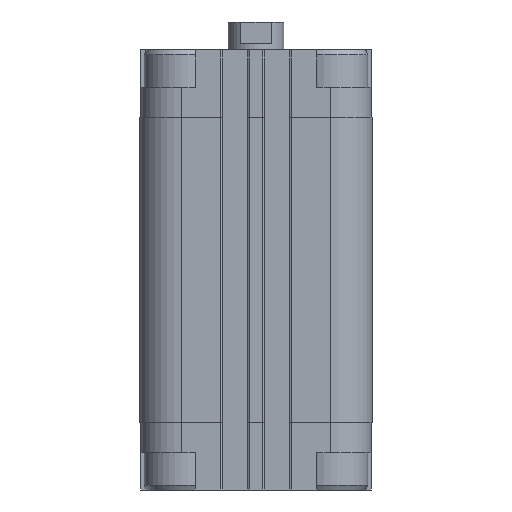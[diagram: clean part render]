
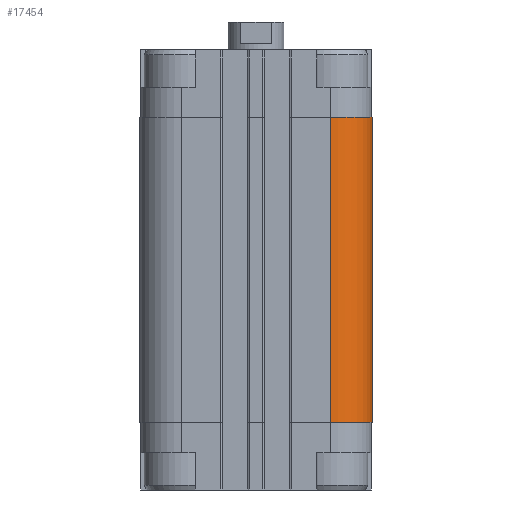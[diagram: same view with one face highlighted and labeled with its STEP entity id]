
A CAD part, front view. The second image highlights one B-rep face of the part: STEP entity #17454.
In plain terms, the highlighted cylindrical face has radius 9 mm (diameter 18 mm), a partial arc.
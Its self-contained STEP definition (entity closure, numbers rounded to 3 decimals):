
#718 = CYLINDRICAL_SURFACE ( 'NONE', #21662, 9. ) ;
#1624 = CARTESIAN_POINT ( 'NONE',  ( 16., -16., -80. ) ) ;
#1860 = EDGE_CURVE ( 'NONE', #20451, #20395, #12939, .T. ) ;
#4367 = EDGE_CURVE ( 'NONE', #12424, #10862, #9340, .T. ) ;
#4683 = DIRECTION ( 'NONE',  ( 0., 0., 1. ) ) ;
#4739 = CARTESIAN_POINT ( 'NONE',  ( 16., -25., -14.5 ) ) ;
#5869 = CARTESIAN_POINT ( 'NONE',  ( 25., -16., -80. ) ) ;
#6098 = FACE_OUTER_BOUND ( 'NONE', #17919, .T. ) ;
#6649 = CARTESIAN_POINT ( 'NONE',  ( 16., -25., -80. ) ) ;
#7453 = CARTESIAN_POINT ( 'NONE',  ( 16., -16., -80. ) ) ;
#7646 = EDGE_CURVE ( 'NONE', #20395, #10862, #9447, .T. ) ;
#7775 = CARTESIAN_POINT ( 'NONE',  ( 16., -25., -80. ) ) ;
#8079 = CIRCLE ( 'NONE', #19580, 9. ) ;
#8470 = DIRECTION ( 'NONE',  ( 0., 0., 1. ) ) ;
#9340 = LINE ( 'NONE', #5869, #12985 ) ;
#9447 = CIRCLE ( 'NONE', #20563, 9. ) ;
#9572 = DIRECTION ( 'NONE',  ( 0., 0., 1. ) ) ;
#10862 = VERTEX_POINT ( 'NONE', #19727 ) ;
#11142 = ORIENTED_EDGE ( 'NONE', *, *, #16235, .T. ) ;
#11146 = DIRECTION ( 'NONE',  ( -1., 0., 0. ) ) ;
#12424 = VERTEX_POINT ( 'NONE', #20824 ) ;
#12832 = DIRECTION ( 'NONE',  ( 0., 0., 1. ) ) ;
#12939 = LINE ( 'NONE', #7775, #16171 ) ;
#12985 = VECTOR ( 'NONE', #12832, 1000. ) ;
#13109 = DIRECTION ( 'NONE',  ( -1., 0., 0. ) ) ;
#13240 = ORIENTED_EDGE ( 'NONE', *, *, #7646, .F. ) ;
#15311 = DIRECTION ( 'NONE',  ( -1., 0., 0. ) ) ;
#16056 = ORIENTED_EDGE ( 'NONE', *, *, #4367, .T. ) ;
#16171 = VECTOR ( 'NONE', #9572, 1000. ) ;
#16235 = EDGE_CURVE ( 'NONE', #20451, #12424, #8079, .T. ) ;
#17454 = ADVANCED_FACE ( 'NONE', ( #6098 ), #718, .T. ) ;
#17919 = EDGE_LOOP ( 'NONE', ( #13240, #22175, #11142, #16056 ) ) ;
#19579 = DIRECTION ( 'NONE',  ( 0., 0., -1. ) ) ;
#19580 = AXIS2_PLACEMENT_3D ( 'NONE', #1624, #8470, #15311 ) ;
#19727 = CARTESIAN_POINT ( 'NONE',  ( 25., -16., -14.5 ) ) ;
#20395 = VERTEX_POINT ( 'NONE', #4739 ) ;
#20451 = VERTEX_POINT ( 'NONE', #6649 ) ;
#20563 = AXIS2_PLACEMENT_3D ( 'NONE', #21632, #4683, #13109 ) ;
#20824 = CARTESIAN_POINT ( 'NONE',  ( 25., -16., -80. ) ) ;
#21632 = CARTESIAN_POINT ( 'NONE',  ( 16., -16., -14.5 ) ) ;
#21662 = AXIS2_PLACEMENT_3D ( 'NONE', #7453, #19579, #11146 ) ;
#22175 = ORIENTED_EDGE ( 'NONE', *, *, #1860, .F. ) ;
